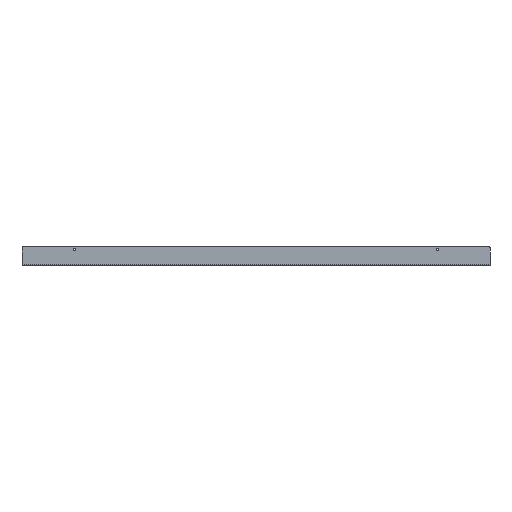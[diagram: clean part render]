
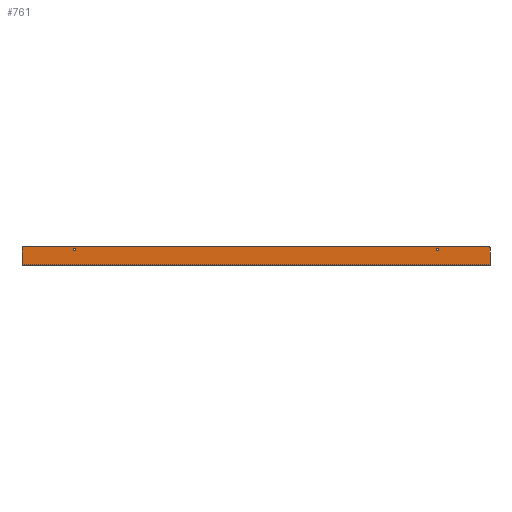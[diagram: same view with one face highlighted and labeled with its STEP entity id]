
A CAD part, top view. The second image highlights one B-rep face of the part: STEP entity #761.
In plain terms, the highlighted planar face has unit normal (0, 0, 1).
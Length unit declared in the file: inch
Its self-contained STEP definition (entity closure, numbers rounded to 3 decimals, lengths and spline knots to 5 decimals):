
#163=CARTESIAN_POINT('',(17.625,0.75,0.055));
#164=VERTEX_POINT('',#163);
#165=CARTESIAN_POINT('',(17.75,0.625,0.055));
#166=VERTEX_POINT('',#165);
#167=CARTESIAN_POINT('',(17.625,0.625,0.055));
#168=DIRECTION('',(0.0,0.0,-1.0));
#169=DIRECTION('',(0.707,0.707,0.0));
#170=AXIS2_PLACEMENT_3D('',#167,#168,#169);
#171=CIRCLE('',#170,0.125);
#172=EDGE_CURVE('',#164,#166,#171,.T.);
#214=CARTESIAN_POINT('',(-17.625,0.75,0.055));
#215=VERTEX_POINT('',#214);
#222=CARTESIAN_POINT('',(-17.625,0.75,0.055));
#223=DIRECTION('',(1.0,0.0,0.0));
#224=VECTOR('',#223,35.25);
#225=LINE('',#222,#224);
#226=EDGE_CURVE('',#215,#164,#225,.T.);
#299=CARTESIAN_POINT('',(-17.75,0.625,0.055));
#300=VERTEX_POINT('',#299);
#301=CARTESIAN_POINT('',(-17.625,0.625,0.055));
#302=DIRECTION('',(0.0,0.0,-1.0));
#303=DIRECTION('',(-0.707,0.707,0.0));
#304=AXIS2_PLACEMENT_3D('',#301,#302,#303);
#305=CIRCLE('',#304,0.125);
#306=EDGE_CURVE('',#300,#215,#305,.T.);
#326=CARTESIAN_POINT('',(-17.75,-0.664,0.055));
#327=VERTEX_POINT('',#326);
#334=CARTESIAN_POINT('',(-17.75,-0.664,0.055));
#335=DIRECTION('',(0.0,1.0,0.0));
#336=VECTOR('',#335,1.289);
#337=LINE('',#334,#336);
#338=EDGE_CURVE('',#327,#300,#337,.T.);
#558=CARTESIAN_POINT('',(-13.8385,0.5,0.055));
#559=VERTEX_POINT('',#558);
#560=CARTESIAN_POINT('',(-13.75,0.5,0.055));
#561=DIRECTION('',(0.0,0.0,-1.0));
#562=DIRECTION('',(1.0,0.0,0.0));
#563=AXIS2_PLACEMENT_3D('',#560,#561,#562);
#564=CIRCLE('',#563,0.0885);
#565=EDGE_CURVE('',#559,#559,#564,.T.);
#578=CARTESIAN_POINT('',(13.6615,0.5,0.055));
#579=VERTEX_POINT('',#578);
#580=CARTESIAN_POINT('',(13.75,0.5,0.055));
#581=DIRECTION('',(0.0,0.0,-1.0));
#582=DIRECTION('',(1.0,0.0,0.0));
#583=AXIS2_PLACEMENT_3D('',#580,#581,#582);
#584=CIRCLE('',#583,0.0885);
#585=EDGE_CURVE('',#579,#579,#584,.T.);
#647=CARTESIAN_POINT('',(17.75,-0.664,0.055));
#648=VERTEX_POINT('',#647);
#715=CARTESIAN_POINT('',(-17.75,-0.664,0.055));
#716=DIRECTION('',(1.0,0.0,0.0));
#717=VECTOR('',#716,35.5);
#718=LINE('',#715,#717);
#719=EDGE_CURVE('',#327,#648,#718,.T.);
#731=CARTESIAN_POINT('',(17.75,0.625,0.055));
#732=DIRECTION('',(0.0,-1.0,0.0));
#733=VECTOR('',#732,1.289);
#734=LINE('',#731,#733);
#735=EDGE_CURVE('',#166,#648,#734,.T.);
#742=CARTESIAN_POINT('',(0.0,0.,0.055));
#743=DIRECTION('',(0.0,0.0,1.0));
#744=DIRECTION('',(1.0,0.0,0.0));
#745=AXIS2_PLACEMENT_3D('',#742,#743,#744);
#746=PLANE('',#745);
#747=ORIENTED_EDGE('',*,*,#172,.F.);
#748=ORIENTED_EDGE('',*,*,#226,.F.);
#749=ORIENTED_EDGE('',*,*,#306,.F.);
#750=ORIENTED_EDGE('',*,*,#338,.F.);
#751=ORIENTED_EDGE('',*,*,#719,.T.);
#752=ORIENTED_EDGE('',*,*,#735,.F.);
#753=EDGE_LOOP('',(#747,#748,#749,#750,#751,#752));
#754=FACE_OUTER_BOUND('',#753,.T.);
#755=ORIENTED_EDGE('',*,*,#565,.T.);
#756=EDGE_LOOP('',(#755));
#757=FACE_BOUND('',#756,.T.);
#758=ORIENTED_EDGE('',*,*,#585,.T.);
#759=EDGE_LOOP('',(#758));
#760=FACE_BOUND('',#759,.T.);
#761=ADVANCED_FACE('',(#754,#757,#760),#746,.T.);
